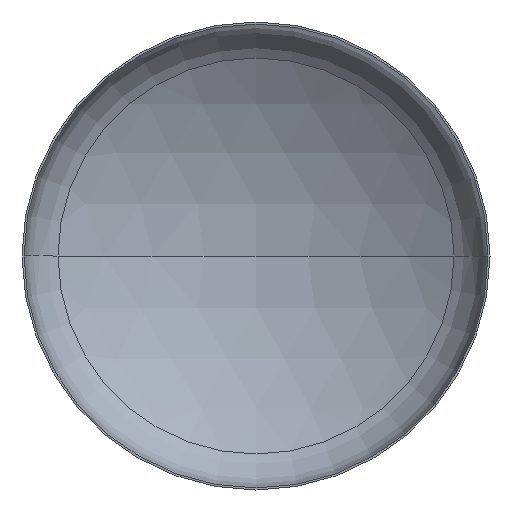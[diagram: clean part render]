
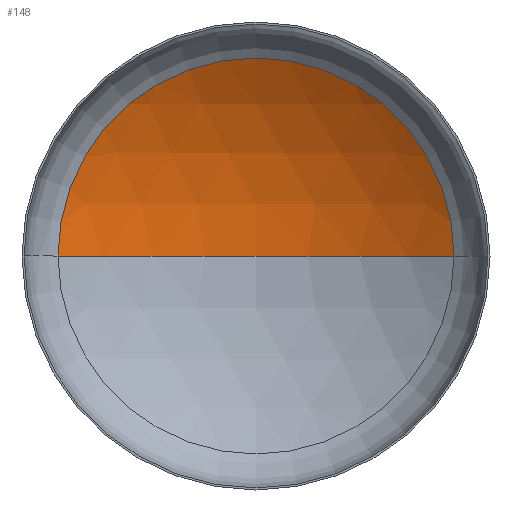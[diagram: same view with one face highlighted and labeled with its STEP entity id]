
A CAD part, front view. The second image highlights one B-rep face of the part: STEP entity #148.
In plain terms, the highlighted spherical face has radius 6000 mm.
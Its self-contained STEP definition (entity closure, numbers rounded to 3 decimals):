
#10 = ORIENTED_EDGE ( 'NONE', *, *, #264, .F. ) ;
#35 = VERTEX_POINT ( 'NONE', #247 ) ;
#79 = EDGE_LOOP ( 'NONE', ( #10, #85, #80 ) ) ;
#80 = ORIENTED_EDGE ( 'NONE', *, *, #256, .T. ) ;
#85 = ORIENTED_EDGE ( 'NONE', *, *, #258, .T. ) ;
#91 = SPHERICAL_SURFACE ( 'NONE', #221, 6000. ) ;
#96 = VERTEX_POINT ( 'NONE', #209 ) ;
#128 = AXIS2_PLACEMENT_3D ( 'NONE', #242, #275, #273 ) ;
#130 = VERTEX_POINT ( 'NONE', #335 ) ;
#140 = AXIS2_PLACEMENT_3D ( 'NONE', #192, #187, #191 ) ;
#145 = AXIS2_PLACEMENT_3D ( 'NONE', #248, #304, #161 ) ;
#148 = ADVANCED_FACE ( 'NONE', ( #342 ), #91, .F. ) ;
#161 = DIRECTION ( 'NONE',  ( 1., 0., 0. ) ) ;
#163 = CIRCLE ( 'NONE', #140, 6000. ) ;
#187 = DIRECTION ( 'NONE',  ( 0., 0., -1. ) ) ;
#191 = DIRECTION ( 'NONE',  ( -1., 0., 0. ) ) ;
#192 = CARTESIAN_POINT ( 'NONE',  ( 0., -4012.199, 0. ) ) ;
#207 = CARTESIAN_POINT ( 'NONE',  ( 0., -4012.199, 0. ) ) ;
#209 = CARTESIAN_POINT ( 'NONE',  ( 3172.755, 1080.308, 0. ) ) ;
#221 = AXIS2_PLACEMENT_3D ( 'NONE', #207, #324, #321 ) ;
#242 = CARTESIAN_POINT ( 'NONE',  ( 0., -4012.199, 0. ) ) ;
#243 = CIRCLE ( 'NONE', #145, 3172.755 ) ;
#247 = CARTESIAN_POINT ( 'NONE',  ( -3172.755, 1080.308, 0. ) ) ;
#248 = CARTESIAN_POINT ( 'NONE',  ( 0., 1080.308, 0. ) ) ;
#256 = EDGE_CURVE ( 'NONE', #96, #35, #243, .T. ) ;
#258 = EDGE_CURVE ( 'NONE', #130, #96, #163, .T. ) ;
#264 = EDGE_CURVE ( 'NONE', #130, #35, #362, .T. ) ;
#273 = DIRECTION ( 'NONE',  ( 1., 0., 0. ) ) ;
#275 = DIRECTION ( 'NONE',  ( 0., 0., 1. ) ) ;
#304 = DIRECTION ( 'NONE',  ( 0., -1., 0. ) ) ;
#321 = DIRECTION ( 'NONE',  ( -1., 0., 0. ) ) ;
#324 = DIRECTION ( 'NONE',  ( 0., 0., -1. ) ) ;
#335 = CARTESIAN_POINT ( 'NONE',  ( 0., 1987.801, 0. ) ) ;
#342 = FACE_OUTER_BOUND ( 'NONE', #79, .T. ) ;
#362 = CIRCLE ( 'NONE', #128, 6000. ) ;
